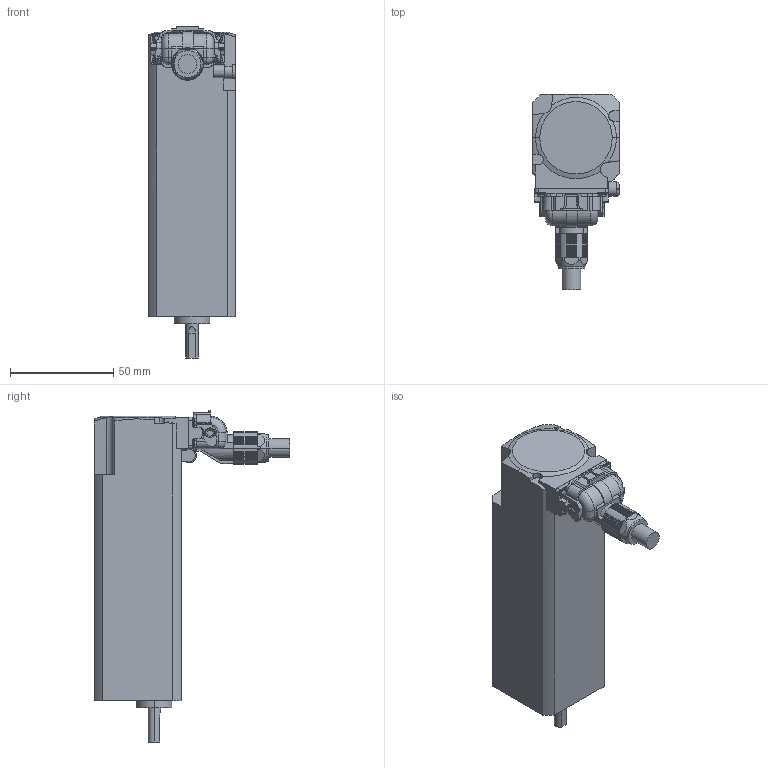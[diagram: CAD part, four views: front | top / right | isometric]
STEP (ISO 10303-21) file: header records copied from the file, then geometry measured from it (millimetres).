
FILE_DESCRIPTION (( 'STEP AP203' ), '1' );
FILE_NAME ('B1562U_V.STEP', '2023-02-21T02:21:22', ( '' ), ( '' ), 'SwSTEP 2.0', 'SolidWorks 2020', '' );
FILE_SCHEMA (( 'CONFIG_CONTROL_DESIGN' ));
Length unit declared in the file: millimetre
Products named in the file (1): B1562U_V
Bounding box: 42 x 94.4 x 160.55 mm (x, y, z)
Volume: 249036.8 mm3; surface area: 31204.1 mm2
Topology: 1 solids, 1 shells, 587 faces, 1628 edges, 1050 vertices
Faces by surface type: plane 337, cylinder 205, cone 24, torus 19, sphere 2
Entity records: 19026 total; most frequent: CARTESIAN_POINT 3680, DIRECTION 3238, ORIENTED_EDGE 3236, EDGE_CURVE 1618, AXIS2_PLACEMENT_3D 1098, VERTEX_POINT 1050, LINE 1042, VECTOR 1042
